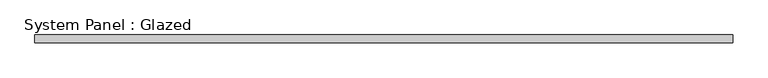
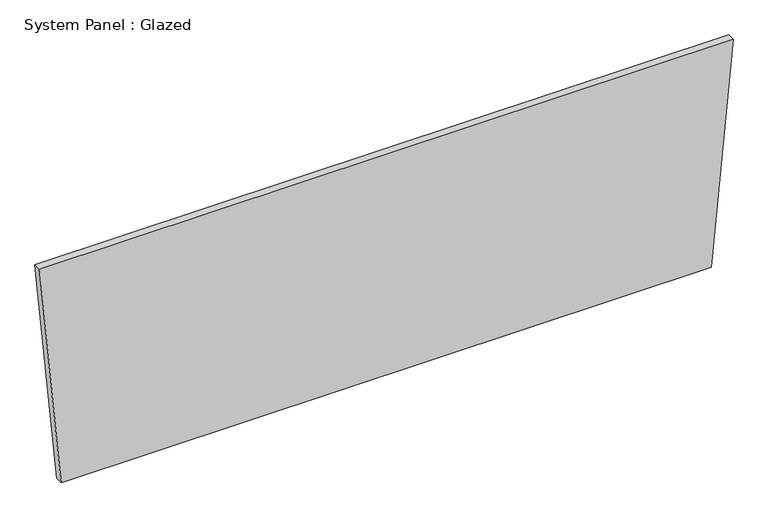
"""IFC4 building model written with IfcOpenShell, lengths in millimetres: plate geometry, System Panel : Glazed."""

from ifc_helpers import new_model, si_unit, frame, origin, place, context, project, spatial, polyline, outline, extrude, source, transform, mapped, element, save


def system_panel_glazed_4fe2338e(model_context):
    return source(origin(), model_context, "Body", "SweptSolid", [
        extrude(outline(polyline([(0.0, -1056.7038738), (0.0, 1056.7038738), (758.7366017, 1127.1507987), (758.7366017, -1127.1507987), (0.0, -1056.7038738)])), frame((0.0, -44.45, 0.0), z_axis=(0.0, 1.0, 0.0), x_axis=(0.0, 0.0, 1.0)), (0.0, 0.0, 1.0), 25.4),
    ])


if __name__ == "__main__":
    model = new_model("IFC4")
    model_context = context("Model", 3, world=origin())
    ifc_project = project(units=[si_unit("LENGTHUNIT", "METRE", prefix="MILLI")], contexts=[model_context])
    site = spatial("IfcSite", under=ifc_project)
    building = spatial("IfcBuilding", under=site)
    placement = place(None, origin())
    system_panel_glazed_shape = system_panel_glazed_4fe2338e(model_context)
    element("IfcPlate", 1, ObjectType="System Panel : Glazed", at=placement, inside=building, context=model_context, shape_type="MappedRepresentation", body=[
        mapped(system_panel_glazed_shape, transform((0.0, 0.0, 0.0), x_axis=(1.0, 0.0, 0.0), y_axis=(0.0, 1.0, 0.0), z_axis=(0.0, 0.0, 1.0))),
    ])
    save(model, "model.ifc")
